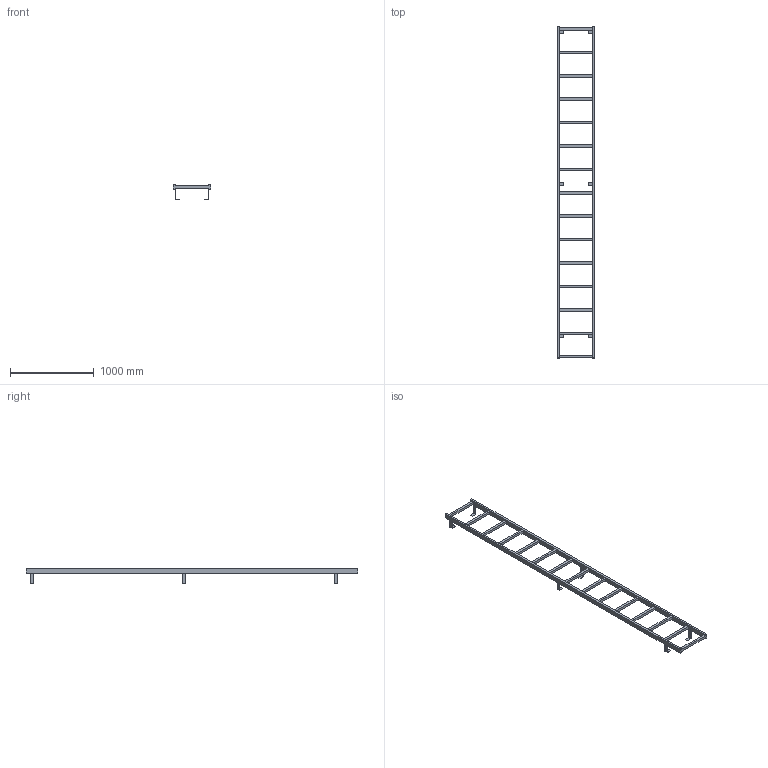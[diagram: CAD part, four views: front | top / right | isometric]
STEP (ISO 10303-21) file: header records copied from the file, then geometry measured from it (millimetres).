
FILE_DESCRIPTION((''),'2;1');
FILE_NAME('017_000109','2017-06-19T',('set'),('HUBER SE'),'PRO/ENGINEER BY PARAMETRIC TECHNOLOGY CORPORATION, 2015280','PRO/ENGINEER BY PARAMETRIC TECHNOLOGY CORPORATION, 2015280','');
FILE_SCHEMA(('CONFIG_CONTROL_DESIGN'));
Length unit declared in the file: millimetre
Products named in the file (1): 017_000109
Bounding box: 450 x 3970 x 178.5 mm (x, y, z)
Volume: 16811940 mm3; surface area: 2090212 mm2
Topology: 1 solids, 1 shells, 118 faces, 445 edges, 325 vertices
Faces by surface type: plane 118
Entity records: 4578 total; most frequent: CARTESIAN_POINT 944, ORIENTED_EDGE 688, DIRECTION 666, VECTOR 398, LINE 398, EDGE_CURVE 344, VERTEX_POINT 224, EDGE_LOOP 142
